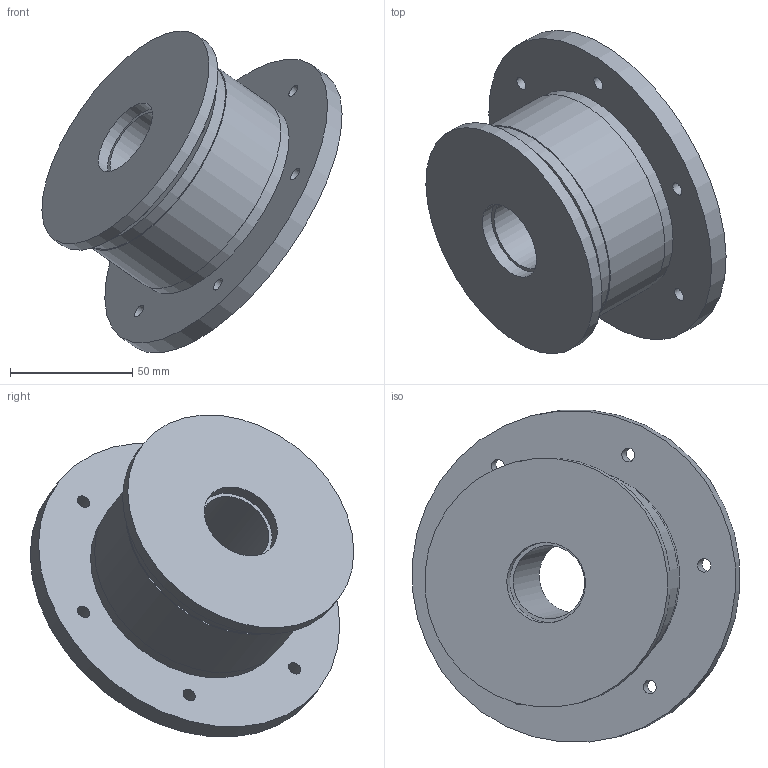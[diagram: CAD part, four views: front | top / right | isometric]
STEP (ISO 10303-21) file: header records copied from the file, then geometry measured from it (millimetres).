
FILE_DESCRIPTION(('Open CASCADE Model'),'2;1');
FILE_NAME('Open CASCADE Shape Model','2026-10-21T13:45:29',('Author'),( 'Open CASCADE'),'Open CASCADE STEP processor 7.9','Open CASCADE 7.9' ,'Unknown');
FILE_SCHEMA(('AUTOMOTIVE_DESIGN { 1 0 10303 214 1 1 1 1 }'));
Length unit declared in the file: millimetre
Products named in the file (11): V17_DEC_ROT_7008_INTERFACE_REFERENCE_ONLY; v17_METAL_PCD110_TO_PCD80_BRIDGE_ADAPTER_UNQUALIFIED; v17_V16_STATOR_METAL_68_2_REFERENCE_BORE_NOT_FIT; v17_V16_LOWER_REMOVABLE_METAL_OUTER_RING_CAP; v17_V16_UPPER_REMOVABLE_METAL_OUTER_RING_CAP; v17_V16_NSK_7008AWDB_RING_1_OEM_EXTERNAL_ENVELOPE_ONLY; v17_V16_NSK_7008AWDB_RING_2_OEM_EXTERNAL_ENVELOPE_ONLY; v17_V16_HOLLOW_METAL_SPINDLE_WITH_INTEGRAL_48_SHOULDER_NO_TOLERANCE; v17_V16_LOCKNUT_ENVELOPE_NO_THREAD_OR_PRELOAD; v17_V16_FLAT_ANTI_LOOSENING_WASHER_PLACEHOLDER_NO_KEY; v17_V16_CAMERA_FIXTURE_INTERFACE_BLANK_NO_CLAMP
Assembly tree (10 placements, depth 2):
  V17_DEC_ROT_7008_INTERFACE_REFERENCE_ONLY
    v17_METAL_PCD110_TO_PCD80_BRIDGE_ADAPTER_UNQUALIFIED
    v17_V16_STATOR_METAL_68_2_REFERENCE_BORE_NOT_FIT
    v17_V16_LOWER_REMOVABLE_METAL_OUTER_RING_CAP
    v17_V16_UPPER_REMOVABLE_METAL_OUTER_RING_CAP
    v17_V16_NSK_7008AWDB_RING_1_OEM_EXTERNAL_ENVELOPE_ONLY
    v17_V16_NSK_7008AWDB_RING_2_OEM_EXTERNAL_ENVELOPE_ONLY
    v17_V16_HOLLOW_METAL_SPINDLE_WITH_INTEGRAL_48_SHOULDER_NO_TOLERANCE
    v17_V16_LOCKNUT_ENVELOPE_NO_THREAD_OR_PRELOAD
    v17_V16_FLAT_ANTI_LOOSENING_WASHER_PLACEHOLDER_NO_KEY
    v17_V16_CAMERA_FIXTURE_INTERFACE_BLANK_NO_CLAMP
Bounding box: 122.77 x 132.36 x 131.62 mm (x, y, z)
Volume: 343369.4 mm3; surface area: 124607.2 mm2
Topology: 10 solids, 10 shells, 72 faces, 153 edges, 102 vertices
Faces by surface type: cylinder 51, plane 21
Full cylindrical faces by diameter (mm): 4.5 x24, 5.5 x6, 30 x1, 33 x1, 40 x3, 40.2 x2, 48 x1, 50 x1, 52 x1, 60 x2, 64 x1, 68 x2, 68.2 x1, 89 x2, 90 x1, 102 x1, 136 x1
Entity records: 4480 total; most frequent: CARTESIAN_POINT 794, DIRECTION 702, ORIENTED_EDGE 306, PCURVE 306, DEFINITIONAL_REPRESENTATION 306, LINE 255, VECTOR 255, AXIS2_PLACEMENT_3D 185
